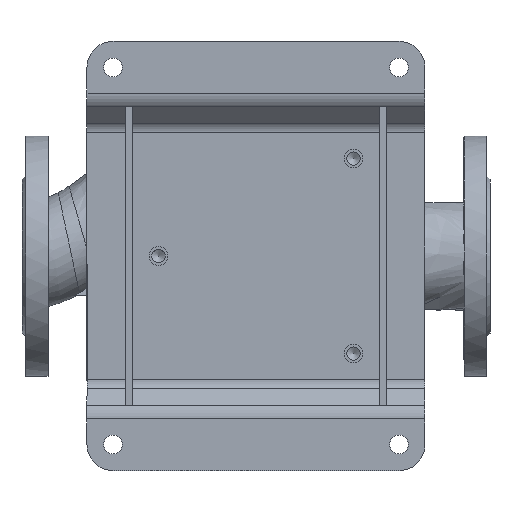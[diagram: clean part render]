
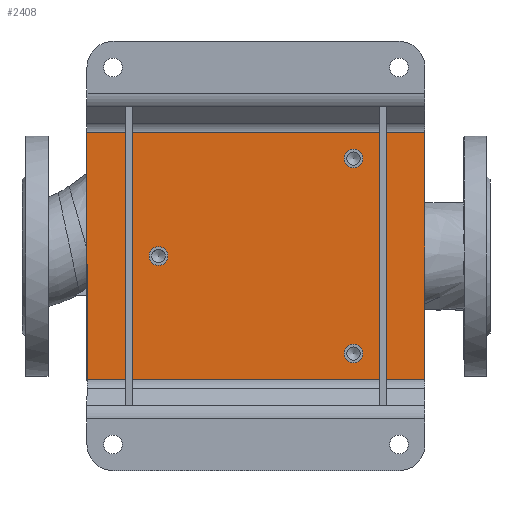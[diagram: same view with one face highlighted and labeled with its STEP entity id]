
A CAD part, top view. The second image highlights one B-rep face of the part: STEP entity #2408.
In plain terms, the highlighted planar face has unit normal (0, 0, 1) as drawn and (0, -1, 0) by its records, which use the part's own axes.
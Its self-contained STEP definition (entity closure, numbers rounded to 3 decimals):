
#302 = EDGE_LOOP ( 'NONE', ( #32946, #21143, #24159, #37658 ) ) ;
#463 = CARTESIAN_POINT ( 'NONE',  ( -75., -5., 67.75 ) ) ;
#797 = CARTESIAN_POINT ( 'NONE',  ( 0., -5., -75. ) ) ;
#1301 = EDGE_LOOP ( 'NONE', ( #35461 ) ) ;
#1316 = EDGE_CURVE ( 'NONE', #5865, #36199, #32677, .T. ) ;
#1390 = CARTESIAN_POINT ( 'NONE',  ( -75., -5., 75. ) ) ;
#2408 = ADVANCED_FACE ( 'NONE', ( #9042, #18206, #21459, #15148 ), #18587, .T. ) ;
#4231 = AXIS2_PLACEMENT_3D ( 'NONE', #34719, #31853, #10080 ) ;
#5328 = VECTOR ( 'NONE', #10217, 1000. ) ;
#5334 = AXIS2_PLACEMENT_3D ( 'NONE', #797, #18918, #34601 ) ;
#5580 = VERTEX_POINT ( 'NONE', #39168 ) ;
#5865 = VERTEX_POINT ( 'NONE', #6754 ) ;
#5968 = EDGE_CURVE ( 'NONE', #36199, #6186, #13687, .T. ) ;
#6168 = CARTESIAN_POINT ( 'NONE',  ( 0., -5., 0. ) ) ;
#6186 = VERTEX_POINT ( 'NONE', #33192 ) ;
#6754 = CARTESIAN_POINT ( 'NONE',  ( 95., -5., 130. ) ) ;
#7253 = CARTESIAN_POINT ( 'NONE',  ( 95., -5., 130. ) ) ;
#9042 = FACE_BOUND ( 'NONE', #38553, .T. ) ;
#9458 = ORIENTED_EDGE ( 'NONE', *, *, #18479, .F. ) ;
#10080 = DIRECTION ( 'NONE',  ( 0., 0., -1. ) ) ;
#10217 = DIRECTION ( 'NONE',  ( -1., 0., 0. ) ) ;
#10461 = EDGE_CURVE ( 'NONE', #25901, #5865, #16597, .T. ) ;
#10597 = VECTOR ( 'NONE', #34511, 1000. ) ;
#11536 = AXIS2_PLACEMENT_3D ( 'NONE', #6168, #14755, #33278 ) ;
#12080 = VERTEX_POINT ( 'NONE', #463 ) ;
#13212 = ORIENTED_EDGE ( 'NONE', *, *, #21476, .F. ) ;
#13344 = CIRCLE ( 'NONE', #34144, 7.25 ) ;
#13687 = LINE ( 'NONE', #31780, #5328 ) ;
#13821 = DIRECTION ( 'NONE',  ( 0., -1., 0. ) ) ;
#14755 = DIRECTION ( 'NONE',  ( 0., -1., 0. ) ) ;
#15148 = FACE_OUTER_BOUND ( 'NONE', #302, .T. ) ;
#15969 = EDGE_LOOP ( 'NONE', ( #9458 ) ) ;
#16597 = LINE ( 'NONE', #21891, #10597 ) ;
#18206 = FACE_BOUND ( 'NONE', #15969, .T. ) ;
#18479 = EDGE_CURVE ( 'NONE', #5580, #5580, #35892, .T. ) ;
#18587 = PLANE ( 'NONE',  #11536 ) ;
#18918 = DIRECTION ( 'NONE',  ( 0., -1., 0. ) ) ;
#20492 = CIRCLE ( 'NONE', #4231, 7.25 ) ;
#20889 = DIRECTION ( 'NONE',  ( 0., 0., 1. ) ) ;
#21143 = ORIENTED_EDGE ( 'NONE', *, *, #10461, .F. ) ;
#21459 = FACE_BOUND ( 'NONE', #1301, .T. ) ;
#21476 = EDGE_CURVE ( 'NONE', #30582, #30582, #20492, .T. ) ;
#21891 = CARTESIAN_POINT ( 'NONE',  ( -95., -5., 130. ) ) ;
#23181 = DIRECTION ( 'NONE',  ( 0., 0., -1. ) ) ;
#23539 = LINE ( 'NONE', #35936, #26614 ) ;
#24159 = ORIENTED_EDGE ( 'NONE', *, *, #31631, .F. ) ;
#24635 = EDGE_CURVE ( 'NONE', #12080, #12080, #13344, .T. ) ;
#25901 = VERTEX_POINT ( 'NONE', #38842 ) ;
#26614 = VECTOR ( 'NONE', #20889, 1000. ) ;
#29218 = DIRECTION ( 'NONE',  ( 0., 0., -1. ) ) ;
#30582 = VERTEX_POINT ( 'NONE', #39562 ) ;
#31631 = EDGE_CURVE ( 'NONE', #6186, #25901, #23539, .T. ) ;
#31780 = CARTESIAN_POINT ( 'NONE',  ( -95., -5., -130. ) ) ;
#31853 = DIRECTION ( 'NONE',  ( 0., -1., 0. ) ) ;
#32677 = LINE ( 'NONE', #7253, #36840 ) ;
#32946 = ORIENTED_EDGE ( 'NONE', *, *, #1316, .F. ) ;
#33192 = CARTESIAN_POINT ( 'NONE',  ( -95., -5., -130. ) ) ;
#33278 = DIRECTION ( 'NONE',  ( 0., 0., -1. ) ) ;
#34144 = AXIS2_PLACEMENT_3D ( 'NONE', #1390, #13821, #23181 ) ;
#34511 = DIRECTION ( 'NONE',  ( 1., 0., 0. ) ) ;
#34601 = DIRECTION ( 'NONE',  ( 0., 0., -1. ) ) ;
#34719 = CARTESIAN_POINT ( 'NONE',  ( 75., -5., 75. ) ) ;
#35461 = ORIENTED_EDGE ( 'NONE', *, *, #24635, .F. ) ;
#35892 = CIRCLE ( 'NONE', #5334, 7.25 ) ;
#35936 = CARTESIAN_POINT ( 'NONE',  ( -95., -5., 130. ) ) ;
#36199 = VERTEX_POINT ( 'NONE', #37327 ) ;
#36840 = VECTOR ( 'NONE', #29218, 1000. ) ;
#37327 = CARTESIAN_POINT ( 'NONE',  ( 95., -5., -130. ) ) ;
#37658 = ORIENTED_EDGE ( 'NONE', *, *, #5968, .F. ) ;
#38553 = EDGE_LOOP ( 'NONE', ( #13212 ) ) ;
#38842 = CARTESIAN_POINT ( 'NONE',  ( -95., -5., 130. ) ) ;
#39168 = CARTESIAN_POINT ( 'NONE',  ( 0., -5., -82.25 ) ) ;
#39562 = CARTESIAN_POINT ( 'NONE',  ( 75., -5., 67.75 ) ) ;
